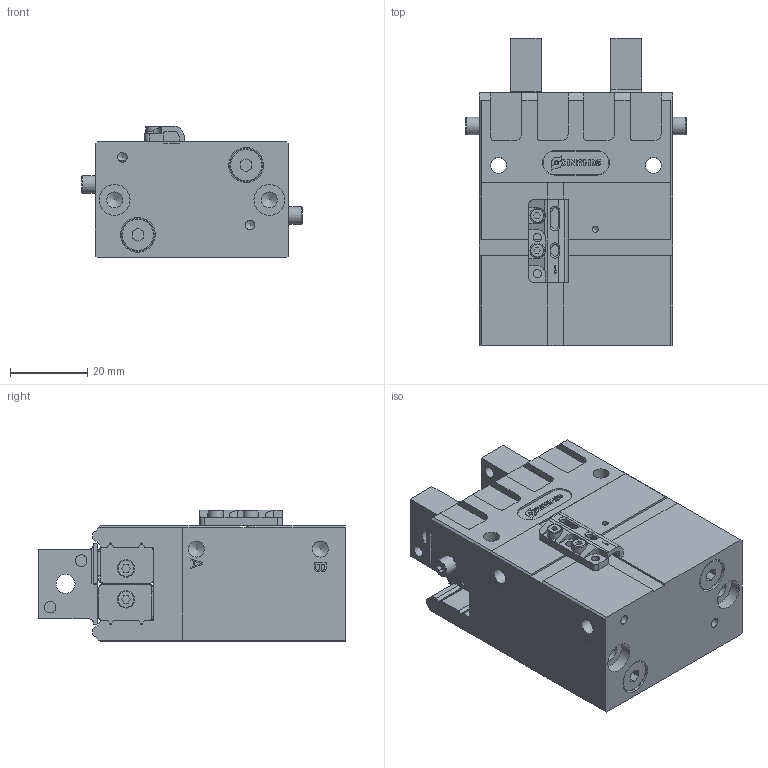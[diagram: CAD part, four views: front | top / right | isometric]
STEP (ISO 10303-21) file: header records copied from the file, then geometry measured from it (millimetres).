
FILE_DESCRIPTION(/* description */ ('STEP AP214'),/* implementation_level */ '2;1');
FILE_NAME(/* name */ 'SCHUNK-0305532 MPG-plus 50-AS_ 0000000',/* time_stamp */ '2026-03-25T10:44:17+01:00',/* author */ ('License CC BY-ND 4.0'),/* organization */ ('CADENAS'),/* preprocessor_version */ 'ST-DEVELOPER v20',/* originating_system */ 'PARTsolutions',/* authorisation */ ' ');
FILE_SCHEMA (('AUTOMOTIVE_DESIGN {1 0 10303 214 3 1 1}'));
Length unit declared in the file: millimetre
Products named in the file (8): SCHUNK-0305532 MPG-plus 50-AS, 0000000; SCHUNK-5520025 Gehaeuse MPG-plus 50 AS; SCHUNK-1007751 Bracket MPG-plus 32; SCHUNK-5518851 Abdeckgehaeuse MPG-plus 50; SCHUNK-5518853 Finger MPG-plus 50; SCHUNK-9962714 Bracket MPG 50; SCHUNK-9965221-Scheibe D4_5; SCHUNK-9954530 Typenschild 6x17x0.3
Assembly tree (14 placements, depth 2):
  SCHUNK-0305532 MPG-plus 50-AS, 0000000
    SCHUNK-5520025 Gehaeuse MPG-plus 50 AS
    SCHUNK-1007751 Bracket MPG-plus 32
    SCHUNK-5518851 Abdeckgehaeuse MPG-plus 50
    SCHUNK-5518853 Finger MPG-plus 50  x2
    SCHUNK-9962714 Bracket MPG 50  x4
    SCHUNK-9965221-Scheibe D4_5  x4
    SCHUNK-9954530 Typenschild 6x17x0.3
Bounding box: 57 x 79.3 x 34.1 mm (x, y, z)
Volume: 89291 mm3; surface area: 31580.4 mm2
Topology: 14 solids, 14 shells, 663 faces, 1739 edges, 1141 vertices
Faces by surface type: plane 463, cylinder 163, cone 25, torus 12
Full cylindrical faces by diameter (mm): 0.792 x1, 1.567 x4, 2 x2, 2.013 x8, 2.2 x4, 2.459 x5, 3 x4, 3.8 x2, 4.134 x8, 4.5 x4, 4.917 x2, 5.3 x2, 8 x4, 8.5 x2, 9 x2
Entity records: 18283 total; most frequent: CARTESIAN_POINT 2812, DIRECTION 2594, ORIENTED_EDGE 2552, EDGE_CURVE 1276, LINE 1000, VECTOR 1000, VERTEX_POINT 890, AXIS2_PLACEMENT_3D 797
